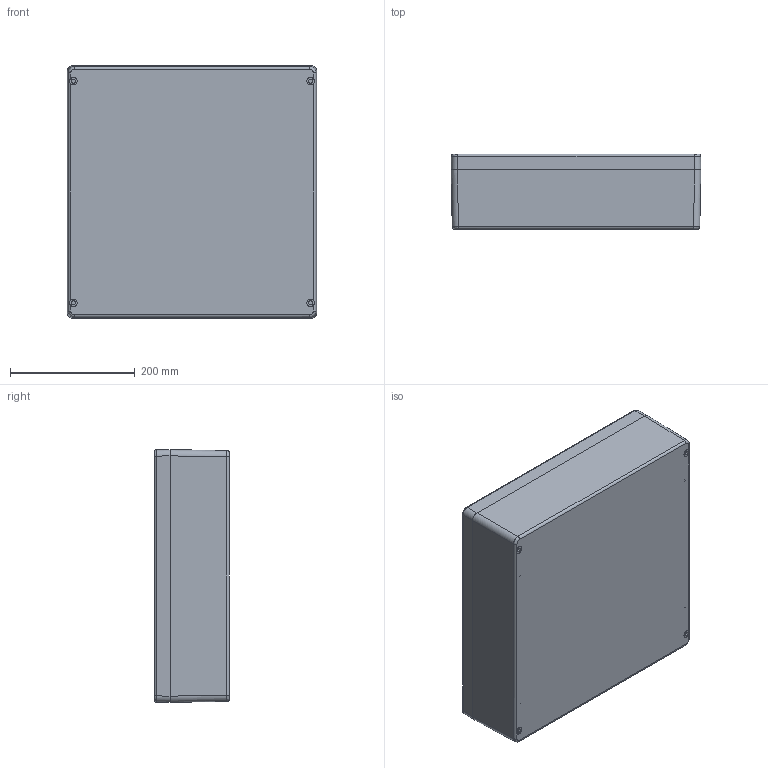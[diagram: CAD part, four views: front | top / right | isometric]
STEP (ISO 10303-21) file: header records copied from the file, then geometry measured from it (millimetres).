
FILE_DESCRIPTION (( 'STEP AP203' ), '1' );
FILE_NAME ('exe400405120.STEP', '2013-06-05T17:41:30', ( 'User' ), ( 'Pentair Inc' ), 'SwSTEP 2.0', 'SolidWorks 2010', '' );
FILE_SCHEMA (( 'CONFIG_CONTROL_DESIGN' ));
Length unit declared in the file: inch
Products named in the file (4): 89092775; 89092829; exe400405120; 89092792
Assembly tree (6 placements, depth 2):
  exe400405120
    89092829  x4
    89092775
    89092792
Bounding box: 400 x 120.5 x 405 mm (x, y, z)
Volume: 1099535.4 mm3; surface area: 1077725.1 mm2
Topology: 10 solids, 21 shells, 619 faces, 1576 edges, 1000 vertices
Faces by surface type: cylinder 248, plane 231, cone 96, torus 24, bspline 20
Entity records: 15947 total; most frequent: CARTESIAN_POINT 4242, DIRECTION 2465, ORIENTED_EDGE 2262, EDGE_CURVE 1151, AXIS2_PLACEMENT_3D 949, VERTEX_POINT 742, VECTOR 567, LINE 567
